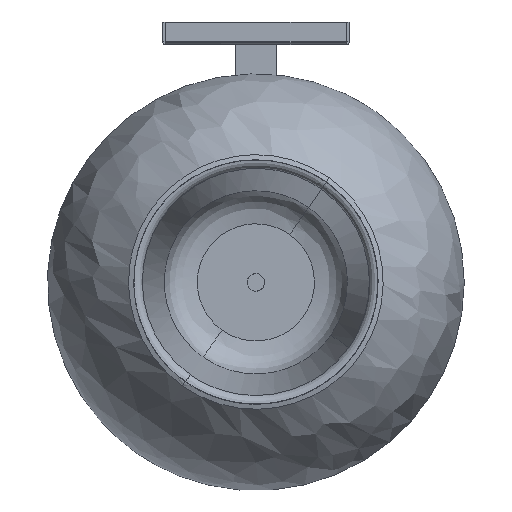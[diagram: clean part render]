
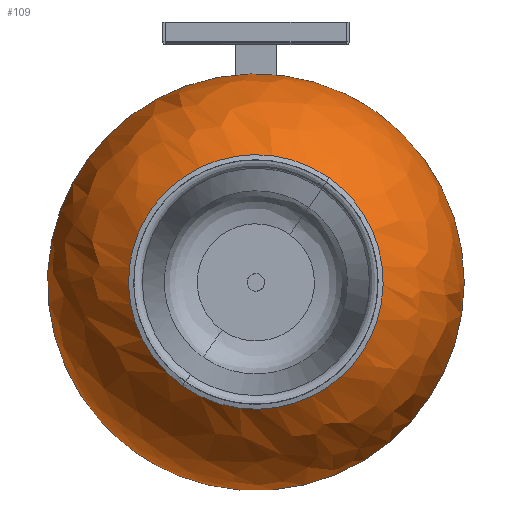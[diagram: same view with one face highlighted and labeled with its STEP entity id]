
A CAD part, top view. The second image highlights one B-rep face of the part: STEP entity #109.
In plain terms, the highlighted free-form (B-spline) face has degree [2, 2] with [5, 5] control points.
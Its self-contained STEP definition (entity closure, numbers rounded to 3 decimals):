
#19=FACE_BOUND('',#360,.T.);
#41=(
BOUNDED_SURFACE()
B_SPLINE_SURFACE(2,2,((#3243,#3244,#3245,#3246,#3247),(#3248,#3249,#3250,
#3251,#3252),(#3253,#3254,#3255,#3256,#3257),(#3258,#3259,#3260,#3261,#3262),
(#3263,#3264,#3265,#3266,#3267)),.UNSPECIFIED.,.F.,.F.,.F.)
B_SPLINE_SURFACE_WITH_KNOTS((3,2,3),(3,2,3),(0.,196.35,392.699),
(0.,196.35,392.699),.UNSPECIFIED.)
GEOMETRIC_REPRESENTATION_ITEM()
RATIONAL_B_SPLINE_SURFACE(((1.,0.707,1.,0.707,1.),
(0.707,0.5,0.707,0.5,0.707),(1.,0.707,
1.,0.707,1.),(0.707,0.5,0.707,0.5,0.707),
(1.,0.707,1.,0.707,1.)))
REPRESENTATION_ITEM('')
SURFACE()
);
#109=ADVANCED_FACE('',(#232,#19),#41,.T.);
#232=FACE_OUTER_BOUND('',#359,.T.);
#359=EDGE_LOOP('',(#661,#662));
#360=EDGE_LOOP('',(#663,#664,#665));
#661=ORIENTED_EDGE('',*,*,#1150,.T.);
#662=ORIENTED_EDGE('',*,*,#1118,.F.);
#663=ORIENTED_EDGE('',*,*,#1136,.T.);
#664=ORIENTED_EDGE('',*,*,#1135,.F.);
#665=ORIENTED_EDGE('',*,*,#1134,.F.);
#1118=EDGE_CURVE('',#1644,#1645,#1515,.T.);
#1134=EDGE_CURVE('',#1646,#1659,#1529,.T.);
#1135=EDGE_CURVE('',#1659,#1647,#1530,.T.);
#1136=EDGE_CURVE('',#1646,#1647,#1531,.T.);
#1150=EDGE_CURVE('',#1644,#1645,#1543,.T.);
#1515=(
BOUNDED_CURVE()
B_SPLINE_CURVE(2,(#4075,#4076,#4077,#4078,#4079),.UNSPECIFIED.,.F.,.F.)
B_SPLINE_CURVE_WITH_KNOTS((3,2,3),(0.,196.35,392.699),
 .UNSPECIFIED.)
CURVE()
GEOMETRIC_REPRESENTATION_ITEM()
RATIONAL_B_SPLINE_CURVE((1.,0.707,1.,0.707,1.))
REPRESENTATION_ITEM('')
);
#1529=(
BOUNDED_CURVE()
B_SPLINE_CURVE(2,(#4133,#4134,#4135,#4136,#4137),.UNSPECIFIED.,.F.,.F.)
B_SPLINE_CURVE_WITH_KNOTS((3,2,3),(0.,119.96,239.921),
 .UNSPECIFIED.)
CURVE()
GEOMETRIC_REPRESENTATION_ITEM()
RATIONAL_B_SPLINE_CURVE((1.,0.707,1.,0.707,1.))
REPRESENTATION_ITEM('')
);
#1530=(
BOUNDED_CURVE()
B_SPLINE_CURVE(2,(#4138,#4139,#4140),.UNSPECIFIED.,.F.,.F.)
B_SPLINE_CURVE_WITH_KNOTS((3,3),(239.921,359.881),
 .UNSPECIFIED.)
CURVE()
GEOMETRIC_REPRESENTATION_ITEM()
RATIONAL_B_SPLINE_CURVE((1.,0.707,1.))
REPRESENTATION_ITEM('')
);
#1531=(
BOUNDED_CURVE()
B_SPLINE_CURVE(2,(#4141,#4142,#4143),.UNSPECIFIED.,.F.,.F.)
B_SPLINE_CURVE_WITH_KNOTS((3,3),(-119.96,0.),.UNSPECIFIED.)
CURVE()
GEOMETRIC_REPRESENTATION_ITEM()
RATIONAL_B_SPLINE_CURVE((1.,0.707,1.))
REPRESENTATION_ITEM('')
);
#1543=(
BOUNDED_CURVE()
B_SPLINE_CURVE(2,(#4193,#4194,#4195,#4196,#4197),.UNSPECIFIED.,.F.,.F.)
B_SPLINE_CURVE_WITH_KNOTS((3,2,3),(0.,196.35,392.699),
 .UNSPECIFIED.)
CURVE()
GEOMETRIC_REPRESENTATION_ITEM()
RATIONAL_B_SPLINE_CURVE((1.,0.707,1.,0.707,1.))
REPRESENTATION_ITEM('')
);
#1644=VERTEX_POINT('',#3858);
#1645=VERTEX_POINT('',#3859);
#1646=VERTEX_POINT('',#3860);
#1647=VERTEX_POINT('',#3861);
#1659=VERTEX_POINT('',#3873);
#3243=CARTESIAN_POINT('',(116.157,51.341,287.141));
#3244=CARTESIAN_POINT('',(218.288,-20.731,287.141));
#3245=CARTESIAN_POINT('',(146.216,-122.861,287.141));
#3246=CARTESIAN_POINT('',(74.145,-224.992,287.141));
#3247=CARTESIAN_POINT('',(-27.986,-152.92,287.141));
#3248=CARTESIAN_POINT('',(116.157,51.341,287.141));
#3249=CARTESIAN_POINT('',(218.288,-20.731,412.141));
#3250=CARTESIAN_POINT('',(146.216,-122.861,412.141));
#3251=CARTESIAN_POINT('',(74.145,-224.992,412.141));
#3252=CARTESIAN_POINT('',(-27.986,-152.92,287.141));
#3253=CARTESIAN_POINT('',(116.157,51.341,287.141));
#3254=CARTESIAN_POINT('',(116.157,51.341,412.141));
#3255=CARTESIAN_POINT('',(44.086,-50.79,412.141));
#3256=CARTESIAN_POINT('',(-27.986,-152.92,412.141));
#3257=CARTESIAN_POINT('',(-27.986,-152.92,287.141));
#3258=CARTESIAN_POINT('',(116.157,51.341,287.141));
#3259=CARTESIAN_POINT('',(14.027,123.413,412.141));
#3260=CARTESIAN_POINT('',(-58.045,21.282,412.141));
#3261=CARTESIAN_POINT('',(-130.117,-80.849,412.141));
#3262=CARTESIAN_POINT('',(-27.986,-152.92,287.141));
#3263=CARTESIAN_POINT('',(116.157,51.341,287.141));
#3264=CARTESIAN_POINT('',(14.027,123.413,287.141));
#3265=CARTESIAN_POINT('',(-58.045,21.282,287.141));
#3266=CARTESIAN_POINT('',(-130.117,-80.849,287.141));
#3267=CARTESIAN_POINT('',(-27.986,-152.92,287.141));
#3858=CARTESIAN_POINT('',(116.157,51.341,287.141));
#3859=CARTESIAN_POINT('',(-27.986,-152.92,287.141));
#3860=CARTESIAN_POINT('',(0.053,-113.187,386.099));
#3861=CARTESIAN_POINT('',(-18.311,-6.757,386.099));
#3873=CARTESIAN_POINT('',(88.118,11.607,386.099));
#4075=CARTESIAN_POINT('',(116.157,51.341,287.141));
#4076=CARTESIAN_POINT('',(218.288,-20.731,287.141));
#4077=CARTESIAN_POINT('',(146.216,-122.861,287.141));
#4078=CARTESIAN_POINT('',(74.145,-224.992,287.141));
#4079=CARTESIAN_POINT('',(-27.986,-152.92,287.141));
#4133=CARTESIAN_POINT('',(0.053,-113.187,386.099));
#4134=CARTESIAN_POINT('',(62.45,-157.219,386.099));
#4135=CARTESIAN_POINT('',(106.483,-94.822,386.099));
#4136=CARTESIAN_POINT('',(150.515,-32.425,386.099));
#4137=CARTESIAN_POINT('',(88.118,11.607,386.099));
#4138=CARTESIAN_POINT('',(88.118,11.607,386.099));
#4139=CARTESIAN_POINT('',(25.721,55.64,386.099));
#4140=CARTESIAN_POINT('',(-18.311,-6.757,386.099));
#4141=CARTESIAN_POINT('',(0.053,-113.187,386.099));
#4142=CARTESIAN_POINT('',(-62.344,-69.154,386.099));
#4143=CARTESIAN_POINT('',(-18.311,-6.757,386.099));
#4193=CARTESIAN_POINT('',(116.157,51.341,287.141));
#4194=CARTESIAN_POINT('',(14.027,123.413,287.141));
#4195=CARTESIAN_POINT('',(-58.045,21.282,287.141));
#4196=CARTESIAN_POINT('',(-130.117,-80.849,287.141));
#4197=CARTESIAN_POINT('',(-27.986,-152.92,287.141));
